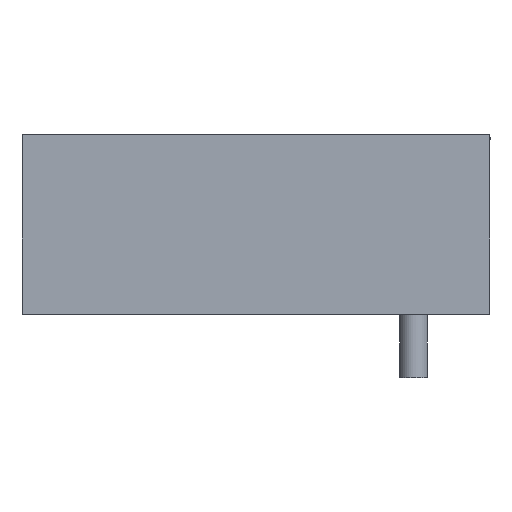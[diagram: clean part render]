
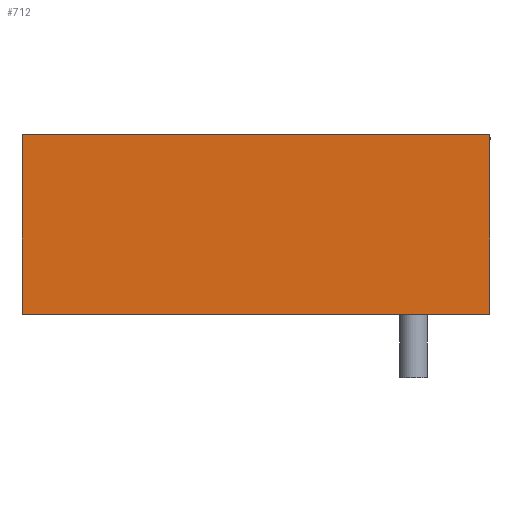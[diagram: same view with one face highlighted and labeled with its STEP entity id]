
A CAD part, top view. The second image highlights one B-rep face of the part: STEP entity #712.
In plain terms, the highlighted planar face has unit normal (0, 0, 1).
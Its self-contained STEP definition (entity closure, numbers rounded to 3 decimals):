
#63=LINE('',#1198,#124);
#71=LINE('',#1214,#132);
#72=LINE('',#1216,#133);
#73=LINE('',#1217,#134);
#124=VECTOR('',#906,10.);
#132=VECTOR('',#918,1000.);
#133=VECTOR('',#919,1000.);
#134=VECTOR('',#920,1000.);
#187=FACE_OUTER_BOUND('',#231,.T.);
#231=EDGE_LOOP('',(#532,#533,#534,#535));
#324=VERTEX_POINT('',#1196);
#325=VERTEX_POINT('',#1197);
#331=VERTEX_POINT('',#1213);
#332=VERTEX_POINT('',#1215);
#403=EDGE_CURVE('',#324,#325,#63,.T.);
#411=EDGE_CURVE('',#324,#331,#71,.T.);
#412=EDGE_CURVE('',#331,#332,#72,.T.);
#413=EDGE_CURVE('',#332,#325,#73,.T.);
#532=ORIENTED_EDGE('',*,*,#411,.T.);
#533=ORIENTED_EDGE('',*,*,#412,.T.);
#534=ORIENTED_EDGE('',*,*,#413,.T.);
#535=ORIENTED_EDGE('',*,*,#403,.F.);
#682=PLANE('',#788);
#712=ADVANCED_FACE('',(#187),#682,.T.);
#788=AXIS2_PLACEMENT_3D('',#1212,#916,#917);
#906=DIRECTION('',(-1.,0.,0.));
#916=DIRECTION('center_axis',(0.,0.,
1.));
#917=DIRECTION('ref_axis',(1.,0.,0.));
#918=DIRECTION('',(0.,1.,0.));
#919=DIRECTION('',(-1.,0.,0.));
#920=DIRECTION('',(0.,-1.,0.));
#1196=CARTESIAN_POINT('',(0.,0.,17.2));
#1197=CARTESIAN_POINT('',(-52.,0.,17.2));
#1198=CARTESIAN_POINT('',(-52.,0.,17.2));
#1212=CARTESIAN_POINT('Origin',(-52.,20.,17.2));
#1213=CARTESIAN_POINT('',(0.,20.,17.2));
#1214=CARTESIAN_POINT('',(0.,20.,17.2));
#1215=CARTESIAN_POINT('',(-52.,20.,17.2));
#1216=CARTESIAN_POINT('',(-52.,20.,17.2));
#1217=CARTESIAN_POINT('',(-52.,20.,17.2));
